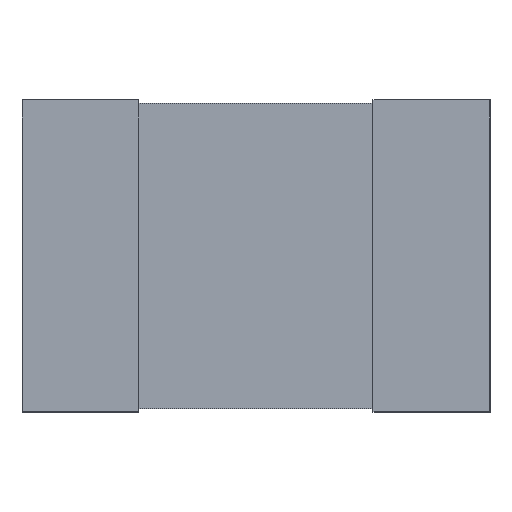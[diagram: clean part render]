
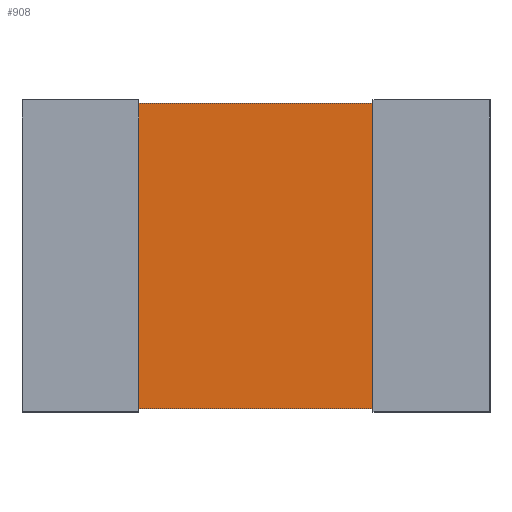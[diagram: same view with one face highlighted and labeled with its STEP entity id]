
A CAD part, top view. The second image highlights one B-rep face of the part: STEP entity #908.
In plain terms, the highlighted planar face has unit normal (0, 0, 1).
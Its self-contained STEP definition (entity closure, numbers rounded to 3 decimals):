
#217 = B_SPLINE_SURFACE_WITH_KNOTS('',1,1,(
    (#218,#219)
    ,(#220,#221
    )),.UNSPECIFIED.,.F.,.F.,.F.,(2,2),(2,2),(0.,0.635),(-3.048,0.),
  .PIECEWISE_BEZIER_KNOTS.);
#218 = CARTESIAN_POINT('',(-1.166,1.554,0.));
#219 = CARTESIAN_POINT('',(-1.166,-1.554,0.));
#220 = CARTESIAN_POINT('',(-1.166,1.554,0.648));
#221 = CARTESIAN_POINT('',(-1.166,-1.554,0.648));
#268 = PLANE('',#269);
#269 = AXIS2_PLACEMENT_3D('',#270,#271,#272);
#270 = CARTESIAN_POINT('',(-2.286,1.524,0.));
#271 = DIRECTION('',(0.,1.,0.));
#272 = DIRECTION('',(0.,0.,1.));
#297 = PLANE('',#298);
#298 = AXIS2_PLACEMENT_3D('',#299,#300,#301);
#299 = CARTESIAN_POINT('',(-2.286,-1.524,0.));
#300 = DIRECTION('',(0.,1.,0.));
#301 = DIRECTION('',(0.,0.,1.));
#501 = VERTEX_POINT('',#502);
#502 = CARTESIAN_POINT('',(-1.166,-1.524,0.635));
#520 = EDGE_CURVE('',#521,#501,#523,.T.);
#521 = VERTEX_POINT('',#522);
#522 = CARTESIAN_POINT('',(-1.166,1.524,0.635));
#523 = SURFACE_CURVE('',#524,(#527,#533),.PCURVE_S1.);
#524 = B_SPLINE_CURVE_WITH_KNOTS('',1,(#525,#526),.UNSPECIFIED.,.F.,.F.,
  (2,2),(0.,1.),.PIECEWISE_BEZIER_KNOTS.);
#525 = CARTESIAN_POINT('',(-1.166,1.524,0.635));
#526 = CARTESIAN_POINT('',(-1.166,-1.524,0.635));
#527 = PCURVE('',#217,#528);
#528 = DEFINITIONAL_REPRESENTATION('',(#529),#532);
#529 = B_SPLINE_CURVE_WITH_KNOTS('',1,(#530,#531),.UNSPECIFIED.,.F.,.F.,
  (2,2),(0.,1.),.PIECEWISE_BEZIER_KNOTS.);
#530 = CARTESIAN_POINT('',(0.623,-3.018));
#531 = CARTESIAN_POINT('',(0.623,-0.03));
#532 = ( GEOMETRIC_REPRESENTATION_CONTEXT(2) 
PARAMETRIC_REPRESENTATION_CONTEXT() REPRESENTATION_CONTEXT('2D SPACE',''
  ) );
#533 = PCURVE('',#534,#539);
#534 = PLANE('',#535);
#535 = AXIS2_PLACEMENT_3D('',#536,#537,#538);
#536 = CARTESIAN_POINT('',(-2.286,-1.524,0.635));
#537 = DIRECTION('',(0.,0.,1.));
#538 = DIRECTION('',(1.,0.,0.));
#539 = DEFINITIONAL_REPRESENTATION('',(#540),#543);
#540 = B_SPLINE_CURVE_WITH_KNOTS('',1,(#541,#542),.UNSPECIFIED.,.F.,.F.,
  (2,2),(0.,1.),.PIECEWISE_BEZIER_KNOTS.);
#541 = CARTESIAN_POINT('',(1.12,3.048));
#542 = CARTESIAN_POINT('',(1.12,0.));
#543 = ( GEOMETRIC_REPRESENTATION_CONTEXT(2) 
PARAMETRIC_REPRESENTATION_CONTEXT() REPRESENTATION_CONTEXT('2D SPACE',''
  ) );
#686 = EDGE_CURVE('',#521,#687,#689,.T.);
#687 = VERTEX_POINT('',#688);
#688 = CARTESIAN_POINT('',(1.166,1.524,0.635));
#689 = SURFACE_CURVE('',#690,(#694,#701),.PCURVE_S1.);
#690 = LINE('',#691,#692);
#691 = CARTESIAN_POINT('',(-2.286,1.524,0.635));
#692 = VECTOR('',#693,1.);
#693 = DIRECTION('',(1.,0.,0.));
#694 = PCURVE('',#268,#695);
#695 = DEFINITIONAL_REPRESENTATION('',(#696),#700);
#696 = LINE('',#697,#698);
#697 = CARTESIAN_POINT('',(0.635,0.));
#698 = VECTOR('',#699,1.);
#699 = DIRECTION('',(0.,1.));
#700 = ( GEOMETRIC_REPRESENTATION_CONTEXT(2) 
PARAMETRIC_REPRESENTATION_CONTEXT() REPRESENTATION_CONTEXT('2D SPACE',''
  ) );
#701 = PCURVE('',#534,#702);
#702 = DEFINITIONAL_REPRESENTATION('',(#703),#707);
#703 = LINE('',#704,#705);
#704 = CARTESIAN_POINT('',(0.,3.048));
#705 = VECTOR('',#706,1.);
#706 = DIRECTION('',(1.,0.));
#707 = ( GEOMETRIC_REPRESENTATION_CONTEXT(2) 
PARAMETRIC_REPRESENTATION_CONTEXT() REPRESENTATION_CONTEXT('2D SPACE',''
  ) );
#721 = B_SPLINE_SURFACE_WITH_KNOTS('',1,1,(
    (#722,#723)
    ,(#724,#725
    )),.UNSPECIFIED.,.F.,.F.,.F.,(2,2),(2,2),(0.,0.635),(-3.048,0.),
  .PIECEWISE_BEZIER_KNOTS.);
#722 = CARTESIAN_POINT('',(1.166,1.554,0.));
#723 = CARTESIAN_POINT('',(1.166,-1.554,0.));
#724 = CARTESIAN_POINT('',(1.166,1.554,0.648));
#725 = CARTESIAN_POINT('',(1.166,-1.554,0.648));
#813 = EDGE_CURVE('',#501,#814,#816,.T.);
#814 = VERTEX_POINT('',#815);
#815 = CARTESIAN_POINT('',(1.166,-1.524,0.635));
#816 = SURFACE_CURVE('',#817,(#821,#828),.PCURVE_S1.);
#817 = LINE('',#818,#819);
#818 = CARTESIAN_POINT('',(-2.286,-1.524,0.635));
#819 = VECTOR('',#820,1.);
#820 = DIRECTION('',(1.,0.,0.));
#821 = PCURVE('',#297,#822);
#822 = DEFINITIONAL_REPRESENTATION('',(#823),#827);
#823 = LINE('',#824,#825);
#824 = CARTESIAN_POINT('',(0.635,0.));
#825 = VECTOR('',#826,1.);
#826 = DIRECTION('',(0.,1.));
#827 = ( GEOMETRIC_REPRESENTATION_CONTEXT(2) 
PARAMETRIC_REPRESENTATION_CONTEXT() REPRESENTATION_CONTEXT('2D SPACE',''
  ) );
#828 = PCURVE('',#534,#829);
#829 = DEFINITIONAL_REPRESENTATION('',(#830),#834);
#830 = LINE('',#831,#832);
#831 = CARTESIAN_POINT('',(0.,0.));
#832 = VECTOR('',#833,1.);
#833 = DIRECTION('',(1.,0.));
#834 = ( GEOMETRIC_REPRESENTATION_CONTEXT(2) 
PARAMETRIC_REPRESENTATION_CONTEXT() REPRESENTATION_CONTEXT('2D SPACE',''
  ) );
#908 = ADVANCED_FACE('',(#909),#534,.T.);
#909 = FACE_BOUND('',#910,.T.);
#910 = EDGE_LOOP('',(#911,#912,#913,#914));
#911 = ORIENTED_EDGE('',*,*,#686,.F.);
#912 = ORIENTED_EDGE('',*,*,#520,.T.);
#913 = ORIENTED_EDGE('',*,*,#813,.T.);
#914 = ORIENTED_EDGE('',*,*,#915,.F.);
#915 = EDGE_CURVE('',#687,#814,#916,.T.);
#916 = SURFACE_CURVE('',#917,(#920,#926),.PCURVE_S1.);
#917 = B_SPLINE_CURVE_WITH_KNOTS('',1,(#918,#919),.UNSPECIFIED.,.F.,.F.,
  (2,2),(0.,1.),.PIECEWISE_BEZIER_KNOTS.);
#918 = CARTESIAN_POINT('',(1.166,1.524,0.635));
#919 = CARTESIAN_POINT('',(1.166,-1.524,0.635));
#920 = PCURVE('',#534,#921);
#921 = DEFINITIONAL_REPRESENTATION('',(#922),#925);
#922 = B_SPLINE_CURVE_WITH_KNOTS('',1,(#923,#924),.UNSPECIFIED.,.F.,.F.,
  (2,2),(0.,1.),.PIECEWISE_BEZIER_KNOTS.);
#923 = CARTESIAN_POINT('',(3.452,3.048));
#924 = CARTESIAN_POINT('',(3.452,0.));
#925 = ( GEOMETRIC_REPRESENTATION_CONTEXT(2) 
PARAMETRIC_REPRESENTATION_CONTEXT() REPRESENTATION_CONTEXT('2D SPACE',''
  ) );
#926 = PCURVE('',#721,#927);
#927 = DEFINITIONAL_REPRESENTATION('',(#928),#931);
#928 = B_SPLINE_CURVE_WITH_KNOTS('',1,(#929,#930),.UNSPECIFIED.,.F.,.F.,
  (2,2),(0.,1.),.PIECEWISE_BEZIER_KNOTS.);
#929 = CARTESIAN_POINT('',(0.623,-3.018));
#930 = CARTESIAN_POINT('',(0.623,-0.03));
#931 = ( GEOMETRIC_REPRESENTATION_CONTEXT(2) 
PARAMETRIC_REPRESENTATION_CONTEXT() REPRESENTATION_CONTEXT('2D SPACE',''
  ) );
